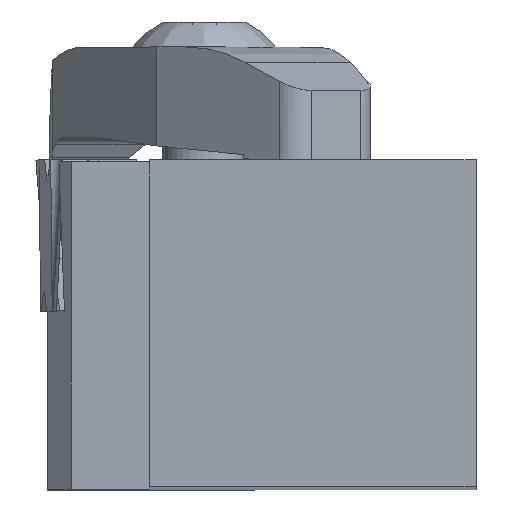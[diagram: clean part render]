
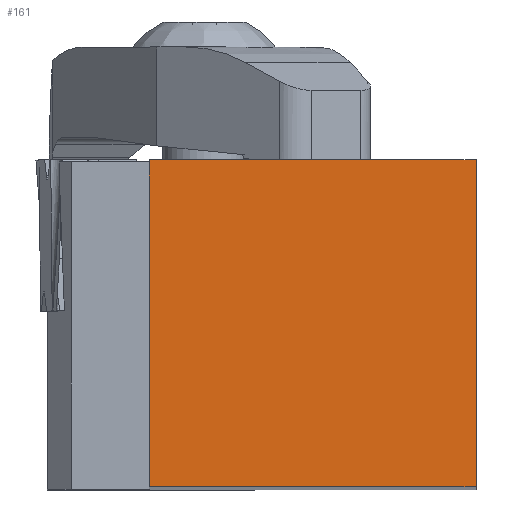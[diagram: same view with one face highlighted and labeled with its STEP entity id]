
A CAD part, top view. The second image highlights one B-rep face of the part: STEP entity #161.
In plain terms, the highlighted planar face has unit normal (0, 0, 1).
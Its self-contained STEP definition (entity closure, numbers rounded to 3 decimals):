
#161=ADVANCED_FACE('',(#358),#290,.F.);
#290=PLANE('',#2532);
#358=FACE_OUTER_BOUND('',#477,.T.);
#477=EDGE_LOOP('',(#643,#644,#645,#646));
#643=ORIENTED_EDGE('',*,*,#1549,.T.);
#644=ORIENTED_EDGE('',*,*,#1546,.F.);
#645=ORIENTED_EDGE('',*,*,#1567,.F.);
#646=ORIENTED_EDGE('',*,*,#1568,.T.);
#1311=VERTEX_POINT('',#3514);
#1312=VERTEX_POINT('',#3516);
#1314=VERTEX_POINT('',#3522);
#1326=VERTEX_POINT('',#3556);
#1546=EDGE_CURVE('',#1311,#1312,#2086,.T.);
#1549=EDGE_CURVE('',#1314,#1312,#2089,.T.);
#1567=EDGE_CURVE('',#1326,#1311,#2107,.T.);
#1568=EDGE_CURVE('',#1326,#1314,#2108,.T.);
#2086=LINE('',#3515,#2306);
#2089=LINE('',#3521,#2309);
#2107=LINE('',#3555,#2327);
#2108=LINE('',#3557,#2328);
#2306=VECTOR('',#2794,1.);
#2309=VECTOR('',#2799,1.);
#2327=VECTOR('',#2825,1.);
#2328=VECTOR('',#2826,1.);
#2532=AXIS2_PLACEMENT_3D('',#3558,#2827,#2828);
#2794=DIRECTION('',(0.,-1.,0.));
#2799=DIRECTION('',(1.,0.,0.));
#2825=DIRECTION('',(1.,0.,0.));
#2826=DIRECTION('',(0.,-1.,0.));
#2827=DIRECTION('',(0.,0.,-1.));
#2828=DIRECTION('',(-1.,0.,0.));
#3514=CARTESIAN_POINT('',(0.,18.86,0.));
#3515=CARTESIAN_POINT('',(0.,18.86,0.));
#3516=CARTESIAN_POINT('',(0.,0.,0.));
#3521=CARTESIAN_POINT('',(-18.86,0.,0.));
#3522=CARTESIAN_POINT('',(-18.86,0.,0.));
#3555=CARTESIAN_POINT('',(-18.86,18.86,0.));
#3556=CARTESIAN_POINT('',(-18.86,18.86,0.));
#3557=CARTESIAN_POINT('',(-18.86,18.86,0.));
#3558=CARTESIAN_POINT('',(-18.86,18.86,0.));
